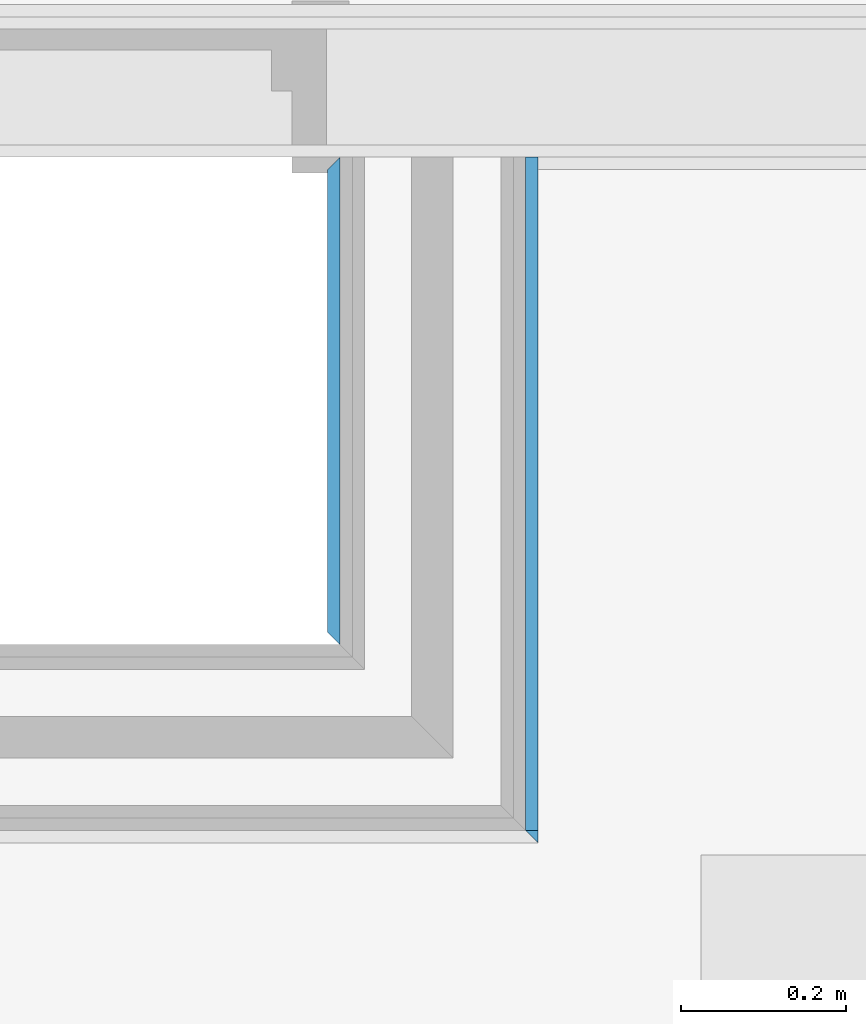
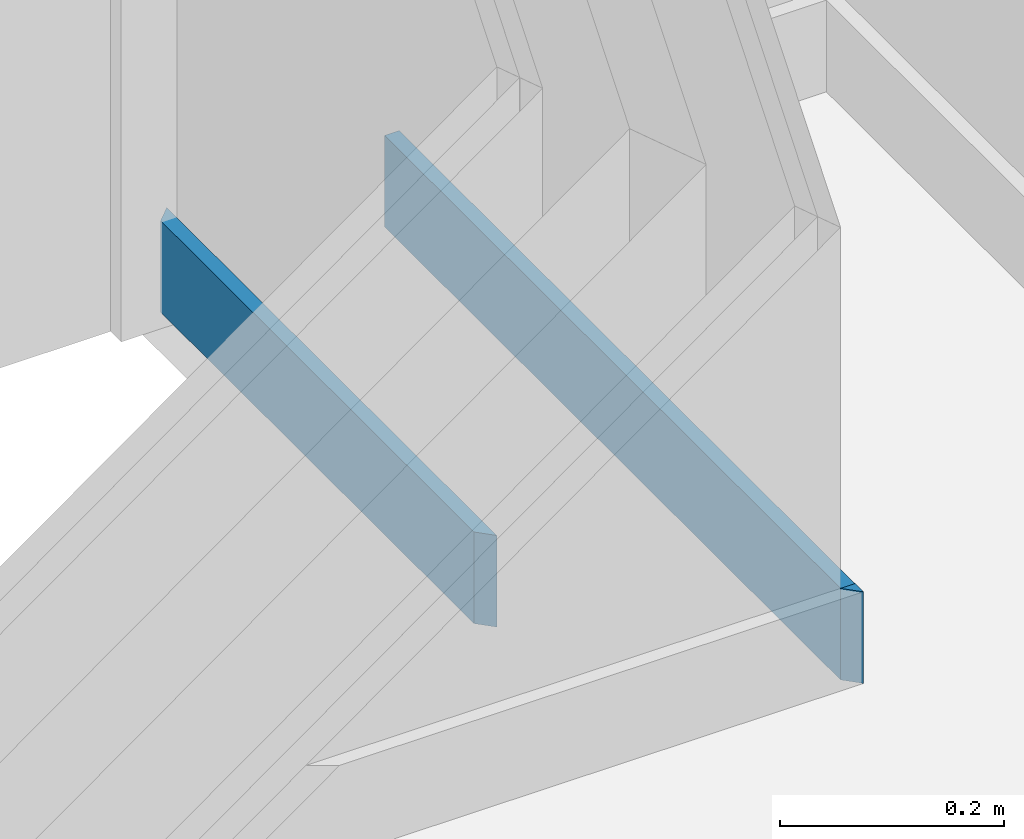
# One storey, part 7 of 64: 3 walls.
"""IFC2X3 building model written with IfcOpenShell, lengths in metres."""

from ifc_helpers import new_model, entity, si_unit, converted_unit, derived_unit, money_unit, direction, frame, frame_2d, origin_with_axes, place, context, subcontext, project, spatial, polyline, rectangle, outline, extrude, material, layer, layer_set, layer_usage, type_object, element, save


model = new_model("IFC2X3")

# Units and contexts
model_context = context("Model", 3, precision=1e-05, world=origin_with_axes(), true_north=direction((0.0, 1.0)))
body_context = subcontext(model_context, "Body", "Model", "MODEL_VIEW", scale=1.0)
ifc_project = project(units=[si_unit("LENGTHUNIT", "METRE"), si_unit("AREAUNIT", "SQUARE_METRE"), si_unit("VOLUMEUNIT", "CUBIC_METRE"), si_unit("ABSORBEDDOSEUNIT", "GRAY"), si_unit("AMOUNTOFSUBSTANCEUNIT", "MOLE"), si_unit("DOSEEQUIVALENTUNIT", "SIEVERT"), si_unit("ELECTRICCAPACITANCEUNIT", "FARAD"), si_unit("ELECTRICCHARGEUNIT", "COULOMB"), si_unit("ELECTRICCONDUCTANCEUNIT", "SIEMENS"), si_unit("ELECTRICCURRENTUNIT", "AMPERE"), si_unit("ELECTRICRESISTANCEUNIT", "OHM"), si_unit("ELECTRICVOLTAGEUNIT", "VOLT"), si_unit("ENERGYUNIT", "JOULE"), si_unit("FORCEUNIT", "NEWTON"), si_unit("FREQUENCYUNIT", "HERTZ"), si_unit("ILLUMINANCEUNIT", "LUX"), si_unit("INDUCTANCEUNIT", "HENRY"), si_unit("LUMINOUSFLUXUNIT", "LUMEN"), si_unit("LUMINOUSINTENSITYUNIT", "CANDELA"), si_unit("MAGNETICFLUXDENSITYUNIT", "TESLA"), si_unit("MAGNETICFLUXUNIT", "WEBER"), si_unit("MASSUNIT", "GRAM"), converted_unit("PLANEANGLEUNIT", "degree", entity("IfcReal", 0.0174532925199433), si_unit("PLANEANGLEUNIT", "RADIAN"), dimensions=[0, 0, 0, 0, 0, 0, 0]), si_unit("POWERUNIT", "WATT"), si_unit("PRESSUREUNIT", "PASCAL"), si_unit("RADIOACTIVITYUNIT", "BECQUEREL"), si_unit("SOLIDANGLEUNIT", "STERADIAN"), si_unit("THERMODYNAMICTEMPERATUREUNIT", "KELVIN"), si_unit("TIMEUNIT", "SECOND"), derived_unit("ACCELERATIONUNIT", [(si_unit("LENGTHUNIT", "METRE"), 1), (si_unit("TIMEUNIT", "SECOND"), -2)]), derived_unit("ANGULARVELOCITYUNIT", [(converted_unit("PLANEANGLEUNIT", "degree", entity("IfcReal", 0.0174532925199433), si_unit("PLANEANGLEUNIT", "RADIAN"), dimensions=[0, 0, 0, 0, 0, 0, 0]), 1), (si_unit("TIMEUNIT", "SECOND"), -1)]), derived_unit("CURVATUREUNIT", [(converted_unit("PLANEANGLEUNIT", "degree", entity("IfcReal", 0.0174532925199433), si_unit("PLANEANGLEUNIT", "RADIAN"), dimensions=[0, 0, 0, 0, 0, 0, 0]), 1), (si_unit("LENGTHUNIT", "METRE"), -1)]), derived_unit("DYNAMICVISCOSITYUNIT", [(si_unit("PRESSUREUNIT", "PASCAL"), 1), (si_unit("TIMEUNIT", "SECOND"), 1)]), derived_unit("HEATFLUXDENSITYUNIT", [(si_unit("POWERUNIT", "WATT"), 1), (si_unit("LENGTHUNIT", "METRE"), -2)]), derived_unit("HEATINGVALUEUNIT", [(si_unit("ENERGYUNIT", "JOULE"), 1), (si_unit("MASSUNIT", "GRAM"), -1)]), derived_unit("INTEGERCOUNTRATEUNIT", [(si_unit("TIMEUNIT", "SECOND"), -1)]), derived_unit("IONCONCENTRATIONUNIT", [(si_unit("MASSUNIT", "GRAM"), 1), (si_unit("VOLUMEUNIT", "CUBIC_METRE"), -1)]), derived_unit("ISOTHERMALMOISTURECAPACITYUNIT", [(si_unit("VOLUMEUNIT", "CUBIC_METRE"), 1), (si_unit("MASSUNIT", "GRAM"), -1)]), derived_unit("KINEMATICVISCOSITYUNIT", [(si_unit("AREAUNIT", "SQUARE_METRE"), 1), (si_unit("TIMEUNIT", "SECOND"), -1)]), derived_unit("LINEARFORCEUNIT", [(si_unit("FORCEUNIT", "NEWTON"), 1), (si_unit("LENGTHUNIT", "METRE"), -1)]), derived_unit("LINEARMOMENTUNIT", [(si_unit("FORCEUNIT", "NEWTON"), 1), (si_unit("LENGTHUNIT", "METRE"), -1)]), derived_unit("LINEARSTIFFNESSUNIT", [(si_unit("FORCEUNIT", "NEWTON"), 1), (si_unit("LENGTHUNIT", "METRE"), -1)]), derived_unit("LINEARVELOCITYUNIT", [(si_unit("LENGTHUNIT", "METRE"), 1), (si_unit("TIMEUNIT", "SECOND"), -1)]), derived_unit("LUMINOUSINTENSITYDISTRIBUTIONUNIT", [(si_unit("LUMINOUSINTENSITYUNIT", "CANDELA"), 1), (si_unit("LUMINOUSFLUXUNIT", "LUMEN"), -1)]), derived_unit("MASSDENSITYUNIT", [(si_unit("MASSUNIT", "GRAM"), 1), (si_unit("VOLUMEUNIT", "CUBIC_METRE"), -1)]), derived_unit("MASSFLOWRATEUNIT", [(si_unit("MASSUNIT", "GRAM"), 1), (si_unit("TIMEUNIT", "SECOND"), -1)]), derived_unit("MASSPERLENGTHUNIT", [(si_unit("MASSUNIT", "GRAM"), 1), (si_unit("LENGTHUNIT", "METRE"), -1)]), derived_unit("MODULUSOFELASTICITYUNIT", [(si_unit("FORCEUNIT", "NEWTON"), 1), (si_unit("AREAUNIT", "SQUARE_METRE"), -1)]), derived_unit("MODULUSOFLINEARSUBGRADEREACTIONUNIT", [(si_unit("FORCEUNIT", "NEWTON"), 1), (si_unit("LENGTHUNIT", "METRE"), -2)]), derived_unit("MODULUSOFROTATIONALSUBGRADEREACTIONUNIT", [(si_unit("FORCEUNIT", "NEWTON"), 1), (si_unit("LENGTHUNIT", "METRE"), 1)]), derived_unit("MODULUSOFSUBGRADEREACTIONUNIT", [(si_unit("FORCEUNIT", "NEWTON"), 1), (si_unit("VOLUMEUNIT", "CUBIC_METRE"), -1)]), derived_unit("MOISTUREDIFFUSIVITYUNIT", [(si_unit("VOLUMEUNIT", "CUBIC_METRE"), 1), (si_unit("TIMEUNIT", "SECOND"), -1)]), derived_unit("MOLECULARWEIGHTUNIT", [(si_unit("MASSUNIT", "GRAM"), 1), (si_unit("AMOUNTOFSUBSTANCEUNIT", "MOLE"), -1)]), derived_unit("PLANARFORCEUNIT", [(si_unit("FORCEUNIT", "NEWTON"), 1), (si_unit("LENGTHUNIT", "METRE"), -2)]), derived_unit("ROTATIONALFREQUENCYUNIT", [(si_unit("TIMEUNIT", "SECOND"), -1)]), derived_unit("ROTATIONALMASSUNIT", [(si_unit("MASSUNIT", "GRAM"), 1), (si_unit("LENGTHUNIT", "METRE"), 2)]), derived_unit("ROTATIONALSTIFFNESSUNIT", [(si_unit("FORCEUNIT", "NEWTON"), 1), (si_unit("LENGTHUNIT", "METRE"), 1), (converted_unit("PLANEANGLEUNIT", "degree", entity("IfcReal", 0.0174532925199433), si_unit("PLANEANGLEUNIT", "RADIAN"), dimensions=[0, 0, 0, 0, 0, 0, 0]), -1)]), derived_unit("SECTIONAREAINTEGRALUNIT", [(si_unit("LENGTHUNIT", "METRE"), 5)]), derived_unit("SECTIONMODULUSUNIT", [(si_unit("LENGTHUNIT", "METRE"), 3)]), derived_unit("SHEARMODULUSUNIT", [(si_unit("FORCEUNIT", "NEWTON"), 1), (si_unit("AREAUNIT", "SQUARE_METRE"), -1)]), derived_unit("SOUNDPOWERUNIT", [(si_unit("ENERGYUNIT", "JOULE"), 1), (si_unit("TIMEUNIT", "SECOND"), -1)]), derived_unit("SPECIFICHEATCAPACITYUNIT", [(si_unit("FORCEUNIT", "NEWTON"), 1), (si_unit("MASSUNIT", "GRAM"), -1), (si_unit("THERMODYNAMICTEMPERATUREUNIT", "KELVIN"), -1)]), derived_unit("TEMPERATUREGRADIENTUNIT", [(si_unit("THERMODYNAMICTEMPERATUREUNIT", "KELVIN"), 1), (si_unit("LENGTHUNIT", "METRE"), -1)]), derived_unit("THERMALADMITTANCEUNIT", [(si_unit("POWERUNIT", "WATT"), 1), (si_unit("AREAUNIT", "SQUARE_METRE"), -1), (si_unit("THERMODYNAMICTEMPERATUREUNIT", "KELVIN"), -1)]), derived_unit("THERMALCONDUCTANCEUNIT", [(si_unit("POWERUNIT", "WATT"), 1), (si_unit("LENGTHUNIT", "METRE"), -1), (si_unit("THERMODYNAMICTEMPERATUREUNIT", "KELVIN"), -1)]), derived_unit("THERMALEXPANSIONCOEFFICIENTUNIT", [(si_unit("THERMODYNAMICTEMPERATUREUNIT", "KELVIN"), -1)]), derived_unit("THERMALRESISTANCEUNIT", [(si_unit("AREAUNIT", "SQUARE_METRE"), 1), (si_unit("POWERUNIT", "WATT"), -1)]), derived_unit("THERMALTRANSMITTANCEUNIT", [(si_unit("POWERUNIT", "WATT"), 1), (si_unit("AREAUNIT", "SQUARE_METRE"), -1), (si_unit("THERMODYNAMICTEMPERATUREUNIT", "KELVIN"), -1)]), derived_unit("TORQUEUNIT", [(si_unit("FORCEUNIT", "NEWTON"), 1), (si_unit("LENGTHUNIT", "METRE"), 1)]), derived_unit("VAPORPERMEABILITYUNIT", [(si_unit("MASSUNIT", "GRAM"), 1), (si_unit("TIMEUNIT", "SECOND"), -1)]), derived_unit("VOLUMETRICFLOWRATEUNIT", [(si_unit("VOLUMEUNIT", "CUBIC_METRE"), 1), (si_unit("TIMEUNIT", "SECOND"), -1)]), derived_unit("WARPINGCONSTANTUNIT", [(si_unit("LENGTHUNIT", "METRE"), 6)]), derived_unit("WARPINGMOMENTUNIT", [(si_unit("FORCEUNIT", "NEWTON"), 1), (si_unit("LENGTHUNIT", "METRE"), 2)]), money_unit("GBP")], contexts=[model_context])

# Site, building, storey
site_placement = place(None, origin_with_axes())
site = spatial("IfcSite", under=ifc_project, at=site_placement, Name="Site", CompositionType="ELEMENT")
building_placement = place(site_placement, origin_with_axes())
building = spatial("IfcBuilding", under=site, at=building_placement, Name="Building01", CompositionType="ELEMENT")
storey_placement = place(building_placement, frame((0.0, 0.0, 8.64), z_axis=(0.0, 0.0, 1.0), x_axis=(1.0, 0.0, 0.0)))
storey = spatial("IfcBuildingStorey", under=building, at=storey_placement, Name="2F", CompositionType="ELEMENT", Elevation=8.64)

# Walls
ifc_material = material(Name="A_BSUK_Walls_Timber")
ifc_layer = layer(ifc_material, 0.015, ventilated=False)
ifc_layer_set = layer_set([ifc_layer])
ifc_layer_usage = layer_usage(ifc_layer_set, "AXIS2", "POSITIVE", 0.0)
wall_type = type_object("IfcWallType", Name="default", PredefinedType="NOTDEFINED")
wall_1_placement = place(storey_placement, frame((14.61, 4.965, 0.015), z_axis=(0.0, 0.0, 1.0), x_axis=(0.0, -1.0, 0.0)))
element("IfcWallStandardCase", 1, at=wall_1_placement, inside=storey, type_object=wall_type, material=ifc_layer_usage, Name="default", ObjectType="default", context=body_context, shape_type="SweptSolid", body=[
    extrude(outline(polyline([(0.575572, 0.015), (-0.015, 0.015), (0.0, 0.0), (0.560572, 0.0), (0.575572, 0.015)])), origin_with_axes(), (0.0, 0.0, 1.0), 0.1),
])
wall_2_placement = place(storey_placement, frame((14.85, 4.98, 0.015), z_axis=(0.0, 0.0, 1.0), x_axis=(0.0, -1.0, 0.0)))
element("IfcWallStandardCase", 2, at=wall_2_placement, inside=storey, type_object=wall_type, material=ifc_layer_usage, Name="default", ObjectType="default", context=body_context, shape_type="SweptSolid", body=[
    extrude(rectangle(XDim=0.815572, YDim=0.015, at=frame_2d((0.407786, 0.0075), x_axis=(-1.0, 0.0))), origin_with_axes(), (0.0, 0.0, 1.0), 0.1),
])
wall_3_placement = place(storey_placement, frame((14.85, 4.164443, 0.015), z_axis=(0.0, 0.0, 1.0), x_axis=(0.0, 1.0, 0.0)))
element("IfcWallStandardCase", 3, at=wall_3_placement, inside=storey, type_object=wall_type, material=ifc_layer_usage, Name="default", ObjectType="default", context=body_context, shape_type="SweptSolid", body=[
    extrude(outline(polyline([(-0.015015, -0.015), (0.0, -0.015), (0.0, 0.0), (-1.5e-05, 0.0), (-0.015015, -0.015)])), origin_with_axes(), (0.0, 0.0, 1.0), 0.1),
])

save(model, "model.ifc")
